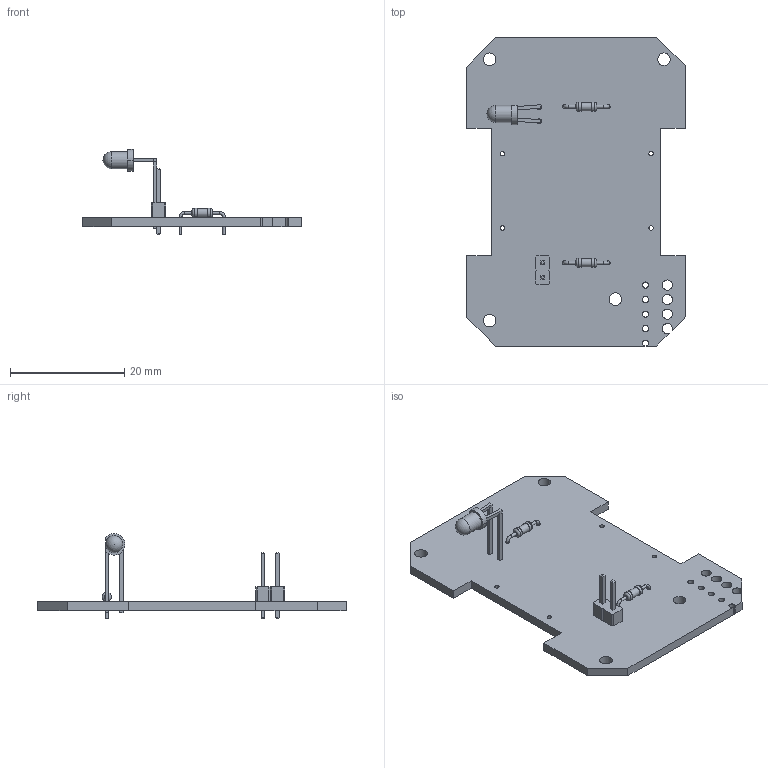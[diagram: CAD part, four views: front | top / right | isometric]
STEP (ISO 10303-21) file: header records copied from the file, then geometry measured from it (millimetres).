
FILE_DESCRIPTION(('KiCad electronic assembly'),'2;1');
FILE_NAME('BURC_JR_External_Power.step','2024-03-24T19:39:00',('Pcbnew') ,('Kicad'),'Open CASCADE STEP processor 7.7','KiCad to STEP converter' ,'Unknown');
FILE_SCHEMA(('AUTOMOTIVE_DESIGN { 1 0 10303 214 1 1 1 1 }'));
Length unit declared in the file: millimetre
Products named in the file (8): BURC_JR_External_Power 1; R_Axial_DIN0204_L3.6mm_D1.6mm_P7.62mm_Horizontal; R_Axial_DIN0204_L36mm_D16mm_P762mm_Horizontal; PinHeader_1x02_P2.54mm_Vertical; PinHeader_1x02_P254mm_Vertical; LED_D3.0mm_Horizontal_O3.81mm_Z10.0mm; BURC_JR_External_Power_PCB
Assembly tree (8 placements, depth 3):
  BURC_JR_External_Power 1
    R_Axial_DIN0204_L3.6mm_D1.6mm_P7.62mm_Horizontal  x2
      R_Axial_DIN0204_L36mm_D16mm_P762mm_Horizontal
    PinHeader_1x02_P2.54mm_Vertical
      PinHeader_1x02_P254mm_Vertical
    LED_D3.0mm_Horizontal_O3.81mm_Z10.0mm
      LED_D3.0mm_Horizontal_O3.81mm_Z10.0mm
    BURC_JR_External_Power_PCB
Bounding box: 38.2 x 53.9 x 14.89 mm (x, y, z)
Volume: 2906.1 mm3; surface area: 4327.5 mm2
Topology: 4 solids, 5 shells, 167 faces, 390 edges, 244 vertices
Faces by surface type: plane 115, cylinder 43, torus 8, sphere 1
Full cylindrical faces by diameter (mm): 0.5 x8, 0.7 x4, 0.762 x4, 0.9 x2, 1 x2, 1.067 x4, 1.44 x2, 1.6 x4, 1.778 x3, 2.2 x4, 3 x1
Entity records: 5232 total; most frequent: DIRECTION 757, CARTESIAN_POINT 741, ORIENTED_EDGE 716, EDGE_CURVE 358, LINE 273, VECTOR 273, AXIS2_PLACEMENT_3D 242, VERTEX_POINT 226
